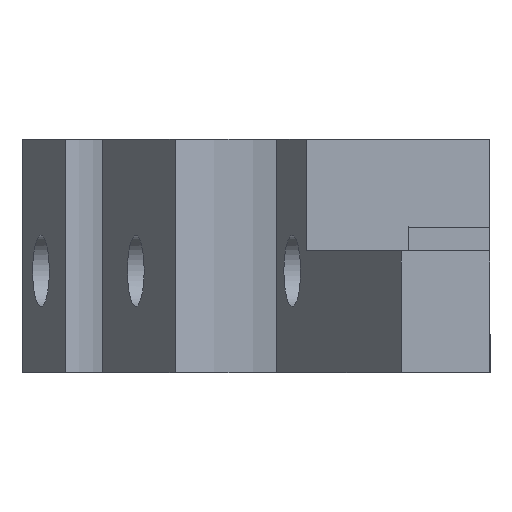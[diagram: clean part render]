
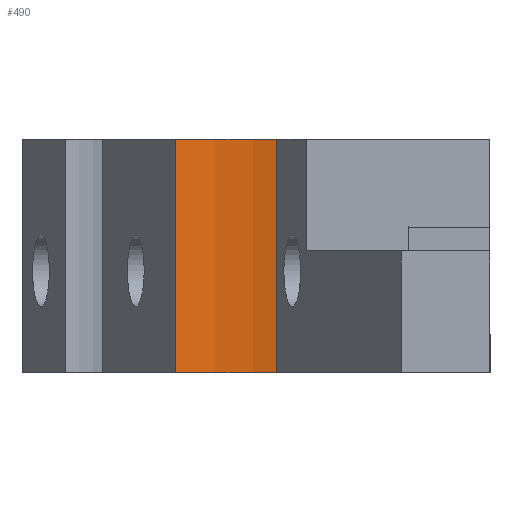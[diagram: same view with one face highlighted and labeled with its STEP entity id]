
A CAD part, left-side view. The second image highlights one B-rep face of the part: STEP entity #490.
In plain terms, the highlighted cylindrical face has radius 11 mm (diameter 22 mm), a partial arc.
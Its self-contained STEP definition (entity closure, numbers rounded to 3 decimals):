
#31=CYLINDRICAL_SURFACE('',#548,11.);
#52=CIRCLE('',#542,11.);
#53=CIRCLE('',#549,11.);
#77=FACE_OUTER_BOUND('',#112,.T.);
#112=EDGE_LOOP('',(#424,#425,#426,#427));
#158=LINE('',#819,#205);
#161=LINE('',#825,#208);
#205=VECTOR('',#676,10.);
#208=VECTOR('',#681,10.);
#242=VERTEX_POINT('',#789);
#243=VERTEX_POINT('',#791);
#251=VERTEX_POINT('',#818);
#253=VERTEX_POINT('',#824);
#297=EDGE_CURVE('',#243,#242,#52,.T.);
#311=EDGE_CURVE('',#243,#251,#158,.T.);
#314=EDGE_CURVE('',#242,#253,#161,.T.);
#315=EDGE_CURVE('',#251,#253,#53,.T.);
#424=ORIENTED_EDGE('',*,*,#297,.T.);
#425=ORIENTED_EDGE('',*,*,#314,.T.);
#426=ORIENTED_EDGE('',*,*,#315,.F.);
#427=ORIENTED_EDGE('',*,*,#311,.F.);
#490=ADVANCED_FACE('',(#77),#31,.F.);
#542=AXIS2_PLACEMENT_3D('',#792,#651,#652);
#548=AXIS2_PLACEMENT_3D('',#823,#679,#680);
#549=AXIS2_PLACEMENT_3D('',#826,#682,#683);
#651=DIRECTION('center_axis',(0.,-1.,0.));
#652=DIRECTION('ref_axis',(1.,0.,0.));
#676=DIRECTION('',(0.,1.,0.));
#679=DIRECTION('center_axis',(0.,1.,0.));
#680=DIRECTION('ref_axis',(-0.974,0.,-0.227));
#681=DIRECTION('',(0.,1.,0.));
#682=DIRECTION('center_axis',(0.,-1.,0.));
#683=DIRECTION('ref_axis',(1.,0.,0.));
#789=CARTESIAN_POINT('',(-24.5,14.518,-37.712));
#791=CARTESIAN_POINT('',(-29.5,14.518,-16.288));
#792=CARTESIAN_POINT('Origin',(-27.,14.518,-27.));
#818=CARTESIAN_POINT('',(-29.5,26.018,-16.288));
#819=CARTESIAN_POINT('',(-29.5,14.418,-16.288));
#823=CARTESIAN_POINT('Origin',(-27.,10.018,-27.));
#824=CARTESIAN_POINT('',(-24.5,26.018,-37.712));
#825=CARTESIAN_POINT('',(-24.5,10.018,-37.712));
#826=CARTESIAN_POINT('Origin',(-27.,26.018,-27.));
